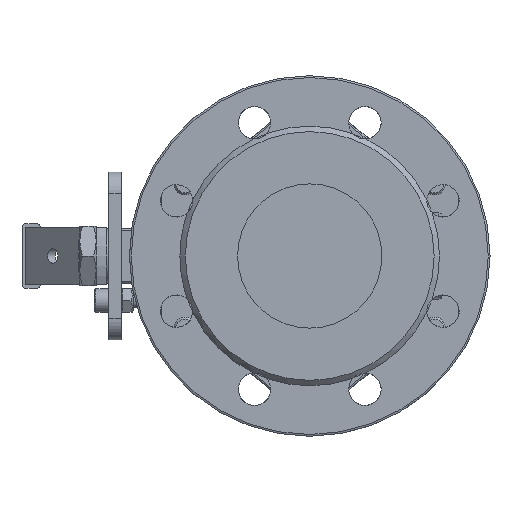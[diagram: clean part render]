
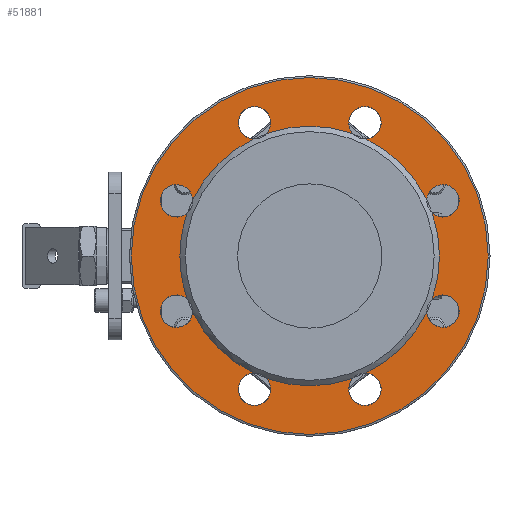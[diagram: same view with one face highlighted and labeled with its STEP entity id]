
A CAD part, left-side view. The second image highlights one B-rep face of the part: STEP entity #51881.
In plain terms, the highlighted planar face has unit normal (-1, 0, 0).
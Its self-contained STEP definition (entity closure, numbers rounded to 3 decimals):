
#51712=CARTESIAN_POINT('',(-71.5,99.,0.0));
#51713=VERTEX_POINT('',#51712);
#51714=CARTESIAN_POINT('',(-71.5,0.0,0.0));
#51715=DIRECTION('',(1.0,0.0,0.0));
#51716=DIRECTION('',(0.0,-1.0,0.0));
#51717=AXIS2_PLACEMENT_3D('',#51714,#51715,#51716);
#51718=CIRCLE('',#51717,99.);
#51719=EDGE_CURVE('',#51713,#51713,#51718,.T.);
#51727=CARTESIAN_POINT('',(-71.5,86.,0.0));
#51728=DIRECTION('',(-1.0,0.0,0.0));
#51729=DIRECTION('',(0.0,0.0,1.0));
#51730=AXIS2_PLACEMENT_3D('',#51727,#51728,#51729);
#51731=PLANE('',#51730);
#51732=ORIENTED_EDGE('',*,*,#51719,.F.);
#51733=EDGE_LOOP('',(#51732));
#51734=FACE_OUTER_BOUND('',#51733,.T.);
#51735=CARTESIAN_POINT('',(-71.5,64.925,-31.125));
#51736=VERTEX_POINT('',#51735);
#51737=CARTESIAN_POINT('',(-71.5,67.917,-23.9));
#51738=VERTEX_POINT('',#51737);
#51739=CARTESIAN_POINT('',(-71.5,73.91,-30.615));
#51740=DIRECTION('',(1.0,0.0,0.0));
#51741=DIRECTION('',(0.0,0.0,-1.0));
#51742=AXIS2_PLACEMENT_3D('',#51739,#51740,#51741);
#51743=CIRCLE('',#51742,9.0);
#51744=EDGE_CURVE('',#51736,#51738,#51743,.T.);
#51745=ORIENTED_EDGE('',*,*,#51744,.T.);
#51746=CARTESIAN_POINT('',(-71.5,67.917,23.9));
#51747=VERTEX_POINT('',#51746);
#51748=CARTESIAN_POINT('',(-71.5,0.0,0.0));
#51749=DIRECTION('',(1.0,0.0,0.0));
#51750=DIRECTION('',(0.0,1.0,0.0));
#51751=AXIS2_PLACEMENT_3D('',#51748,#51749,#51750);
#51752=CIRCLE('',#51751,72.);
#51753=EDGE_CURVE('',#51738,#51747,#51752,.T.);
#51754=ORIENTED_EDGE('',*,*,#51753,.T.);
#51755=CARTESIAN_POINT('',(-71.5,64.925,31.125));
#51756=VERTEX_POINT('',#51755);
#51757=CARTESIAN_POINT('',(-71.5,73.91,30.615));
#51758=DIRECTION('',(1.0,0.0,0.0));
#51759=DIRECTION('',(0.0,0.0,-1.0));
#51760=AXIS2_PLACEMENT_3D('',#51757,#51758,#51759);
#51761=CIRCLE('',#51760,9.0);
#51762=EDGE_CURVE('',#51747,#51756,#51761,.T.);
#51763=ORIENTED_EDGE('',*,*,#51762,.T.);
#51764=CARTESIAN_POINT('',(-71.5,31.125,64.925));
#51765=VERTEX_POINT('',#51764);
#51766=CARTESIAN_POINT('',(-71.5,0.0,0.0));
#51767=DIRECTION('',(1.0,0.0,0.0));
#51768=DIRECTION('',(0.0,1.0,0.0));
#51769=AXIS2_PLACEMENT_3D('',#51766,#51767,#51768);
#51770=CIRCLE('',#51769,72.);
#51771=EDGE_CURVE('',#51756,#51765,#51770,.T.);
#51772=ORIENTED_EDGE('',*,*,#51771,.T.);
#51773=CARTESIAN_POINT('',(-71.5,23.9,67.917));
#51774=VERTEX_POINT('',#51773);
#51775=CARTESIAN_POINT('',(-71.5,30.615,73.91));
#51776=DIRECTION('',(1.0,0.0,0.0));
#51777=DIRECTION('',(0.0,0.0,-1.0));
#51778=AXIS2_PLACEMENT_3D('',#51775,#51776,#51777);
#51779=CIRCLE('',#51778,9.0);
#51780=EDGE_CURVE('',#51765,#51774,#51779,.T.);
#51781=ORIENTED_EDGE('',*,*,#51780,.T.);
#51782=CARTESIAN_POINT('',(-71.5,-23.9,67.917));
#51783=VERTEX_POINT('',#51782);
#51784=CARTESIAN_POINT('',(-71.5,0.0,0.0));
#51785=DIRECTION('',(1.0,0.0,0.0));
#51786=DIRECTION('',(0.0,1.0,0.0));
#51787=AXIS2_PLACEMENT_3D('',#51784,#51785,#51786);
#51788=CIRCLE('',#51787,72.);
#51789=EDGE_CURVE('',#51774,#51783,#51788,.T.);
#51790=ORIENTED_EDGE('',*,*,#51789,.T.);
#51791=CARTESIAN_POINT('',(-71.5,-31.125,64.925));
#51792=VERTEX_POINT('',#51791);
#51793=CARTESIAN_POINT('',(-71.5,-30.615,73.91));
#51794=DIRECTION('',(1.0,0.0,0.0));
#51795=DIRECTION('',(0.0,0.0,-1.0));
#51796=AXIS2_PLACEMENT_3D('',#51793,#51794,#51795);
#51797=CIRCLE('',#51796,9.0);
#51798=EDGE_CURVE('',#51783,#51792,#51797,.T.);
#51799=ORIENTED_EDGE('',*,*,#51798,.T.);
#51800=CARTESIAN_POINT('',(-71.5,-64.925,31.125));
#51801=VERTEX_POINT('',#51800);
#51802=CARTESIAN_POINT('',(-71.5,0.0,0.0));
#51803=DIRECTION('',(1.0,0.0,0.0));
#51804=DIRECTION('',(0.0,1.0,0.0));
#51805=AXIS2_PLACEMENT_3D('',#51802,#51803,#51804);
#51806=CIRCLE('',#51805,72.);
#51807=EDGE_CURVE('',#51792,#51801,#51806,.T.);
#51808=ORIENTED_EDGE('',*,*,#51807,.T.);
#51809=CARTESIAN_POINT('',(-71.5,-67.917,23.9));
#51810=VERTEX_POINT('',#51809);
#51811=CARTESIAN_POINT('',(-71.5,-73.91,30.615));
#51812=DIRECTION('',(1.0,0.0,0.0));
#51813=DIRECTION('',(0.0,0.0,-1.0));
#51814=AXIS2_PLACEMENT_3D('',#51811,#51812,#51813);
#51815=CIRCLE('',#51814,9.0);
#51816=EDGE_CURVE('',#51801,#51810,#51815,.T.);
#51817=ORIENTED_EDGE('',*,*,#51816,.T.);
#51818=CARTESIAN_POINT('',(-71.5,-67.917,-23.9));
#51819=VERTEX_POINT('',#51818);
#51820=CARTESIAN_POINT('',(-71.5,0.0,0.0));
#51821=DIRECTION('',(1.0,0.0,0.0));
#51822=DIRECTION('',(0.0,1.0,0.0));
#51823=AXIS2_PLACEMENT_3D('',#51820,#51821,#51822);
#51824=CIRCLE('',#51823,72.);
#51825=EDGE_CURVE('',#51810,#51819,#51824,.T.);
#51826=ORIENTED_EDGE('',*,*,#51825,.T.);
#51827=CARTESIAN_POINT('',(-71.5,-64.925,-31.125));
#51828=VERTEX_POINT('',#51827);
#51829=CARTESIAN_POINT('',(-71.5,-73.91,-30.615));
#51830=DIRECTION('',(1.0,0.0,0.0));
#51831=DIRECTION('',(0.0,0.0,-1.0));
#51832=AXIS2_PLACEMENT_3D('',#51829,#51830,#51831);
#51833=CIRCLE('',#51832,9.0);
#51834=EDGE_CURVE('',#51819,#51828,#51833,.T.);
#51835=ORIENTED_EDGE('',*,*,#51834,.T.);
#51836=CARTESIAN_POINT('',(-71.5,-31.125,-64.925));
#51837=VERTEX_POINT('',#51836);
#51838=CARTESIAN_POINT('',(-71.5,0.0,0.0));
#51839=DIRECTION('',(1.0,0.0,0.0));
#51840=DIRECTION('',(0.0,1.0,0.0));
#51841=AXIS2_PLACEMENT_3D('',#51838,#51839,#51840);
#51842=CIRCLE('',#51841,72.);
#51843=EDGE_CURVE('',#51828,#51837,#51842,.T.);
#51844=ORIENTED_EDGE('',*,*,#51843,.T.);
#51845=CARTESIAN_POINT('',(-71.5,-23.9,-67.917));
#51846=VERTEX_POINT('',#51845);
#51847=CARTESIAN_POINT('',(-71.5,-30.615,-73.91));
#51848=DIRECTION('',(1.0,0.0,0.0));
#51849=DIRECTION('',(0.0,0.0,-1.0));
#51850=AXIS2_PLACEMENT_3D('',#51847,#51848,#51849);
#51851=CIRCLE('',#51850,9.0);
#51852=EDGE_CURVE('',#51837,#51846,#51851,.T.);
#51853=ORIENTED_EDGE('',*,*,#51852,.T.);
#51854=CARTESIAN_POINT('',(-71.5,23.9,-67.917));
#51855=VERTEX_POINT('',#51854);
#51856=CARTESIAN_POINT('',(-71.5,0.0,0.0));
#51857=DIRECTION('',(1.0,0.0,0.0));
#51858=DIRECTION('',(0.0,1.0,0.0));
#51859=AXIS2_PLACEMENT_3D('',#51856,#51857,#51858);
#51860=CIRCLE('',#51859,72.);
#51861=EDGE_CURVE('',#51846,#51855,#51860,.T.);
#51862=ORIENTED_EDGE('',*,*,#51861,.T.);
#51863=CARTESIAN_POINT('',(-71.5,31.125,-64.925));
#51864=VERTEX_POINT('',#51863);
#51865=CARTESIAN_POINT('',(-71.5,30.615,-73.91));
#51866=DIRECTION('',(1.0,0.0,0.0));
#51867=DIRECTION('',(0.0,0.0,-1.0));
#51868=AXIS2_PLACEMENT_3D('',#51865,#51866,#51867);
#51869=CIRCLE('',#51868,9.0);
#51870=EDGE_CURVE('',#51855,#51864,#51869,.T.);
#51871=ORIENTED_EDGE('',*,*,#51870,.T.);
#51872=CARTESIAN_POINT('',(-71.5,0.0,0.0));
#51873=DIRECTION('',(1.0,0.0,0.0));
#51874=DIRECTION('',(0.0,1.0,0.0));
#51875=AXIS2_PLACEMENT_3D('',#51872,#51873,#51874);
#51876=CIRCLE('',#51875,72.);
#51877=EDGE_CURVE('',#51864,#51736,#51876,.T.);
#51878=ORIENTED_EDGE('',*,*,#51877,.T.);
#51879=EDGE_LOOP('',(#51745,#51754,#51763,#51772,#51781,#51790,#51799,#51808,#51817,#51826,#51835,#51844,#51853,#51862,#51871,#51878));
#51880=FACE_BOUND('',#51879,.T.);
#51881=ADVANCED_FACE('',(#51734,#51880),#51731,.T.);
